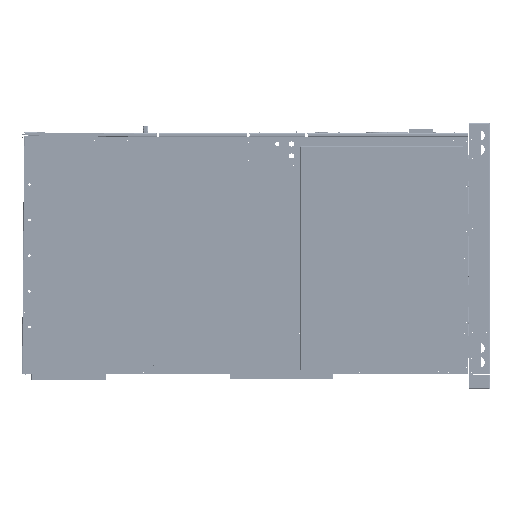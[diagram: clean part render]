
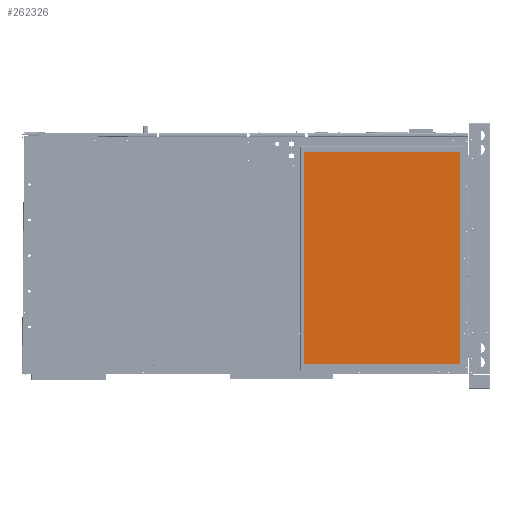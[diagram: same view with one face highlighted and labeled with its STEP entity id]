
A CAD part, left-side view. The second image highlights one B-rep face of the part: STEP entity #262326.
In plain terms, the highlighted planar face has unit normal (-1, 0, 0).
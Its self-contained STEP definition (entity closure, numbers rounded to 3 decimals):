
#28456 = PLANE ( 'NONE',  #550047 ) ;
#57085 = EDGE_CURVE ( 'NONE', #561862, #287680, #571057, .T. ) ;
#63825 = DIRECTION ( 'NONE',  ( -1., 0., 0. ) ) ;
#64290 = VECTOR ( 'NONE', #152510, 1000. ) ;
#72557 = VECTOR ( 'NONE', #491630, 1000. ) ;
#75426 = DIRECTION ( 'NONE',  ( 0., 0., 1. ) ) ;
#118497 = EDGE_CURVE ( 'NONE', #217577, #561862, #453707, .T. ) ;
#126145 = EDGE_CURVE ( 'NONE', #547301, #217577, #435928, .T. ) ;
#131636 = CARTESIAN_POINT ( 'NONE',  ( 16.91, 1177.804, 1704.346 ) ) ;
#139410 = CARTESIAN_POINT ( 'NONE',  ( 16.91, 1177.804, 569.305 ) ) ;
#152510 = DIRECTION ( 'NONE',  ( 0., 0., -1. ) ) ;
#186476 = VECTOR ( 'NONE', #565273, 1000. ) ;
#191178 = ORIENTED_EDGE ( 'NONE', *, *, #336626, .T. ) ;
#201838 = CARTESIAN_POINT ( 'NONE',  ( 16.91, 2013.959, 1704.346 ) ) ;
#217577 = VERTEX_POINT ( 'NONE', #245487 ) ;
#240688 = LINE ( 'NONE', #378666, #64290 ) ;
#240940 = ORIENTED_EDGE ( 'NONE', *, *, #118497, .T. ) ;
#245487 = CARTESIAN_POINT ( 'NONE',  ( 16.91, 1177.804, 569.305 ) ) ;
#246019 = FACE_OUTER_BOUND ( 'NONE', #447175, .T. ) ;
#256779 = CARTESIAN_POINT ( 'NONE',  ( 16.91, 2013.959, 569.305 ) ) ;
#262326 = ADVANCED_FACE ( 'NONE', ( #246019 ), #28456, .T. ) ;
#272990 = CARTESIAN_POINT ( 'NONE',  ( 16.91, 2013.959, 569.305 ) ) ;
#275295 = VECTOR ( 'NONE', #371317, 1000. ) ;
#287680 = VERTEX_POINT ( 'NONE', #201838 ) ;
#292977 = CARTESIAN_POINT ( 'NONE',  ( 16.91, 1165.104, 538.825 ) ) ;
#300764 = CARTESIAN_POINT ( 'NONE',  ( 16.91, 1177.804, 1704.346 ) ) ;
#336626 = EDGE_CURVE ( 'NONE', #287680, #547301, #240688, .T. ) ;
#340395 = ORIENTED_EDGE ( 'NONE', *, *, #126145, .T. ) ;
#349293 = ORIENTED_EDGE ( 'NONE', *, *, #57085, .T. ) ;
#371317 = DIRECTION ( 'NONE',  ( 0., 0., 1. ) ) ;
#378666 = CARTESIAN_POINT ( 'NONE',  ( 16.91, 2013.959, 1704.346 ) ) ;
#435928 = LINE ( 'NONE', #256779, #72557 ) ;
#447175 = EDGE_LOOP ( 'NONE', ( #340395, #240940, #349293, #191178 ) ) ;
#453707 = LINE ( 'NONE', #139410, #275295 ) ;
#491630 = DIRECTION ( 'NONE',  ( 0., -1., 0. ) ) ;
#547301 = VERTEX_POINT ( 'NONE', #272990 ) ;
#550047 = AXIS2_PLACEMENT_3D ( 'NONE', #292977, #63825, #75426 ) ;
#561862 = VERTEX_POINT ( 'NONE', #131636 ) ;
#565273 = DIRECTION ( 'NONE',  ( 0., 1., 0. ) ) ;
#571057 = LINE ( 'NONE', #300764, #186476 ) ;
